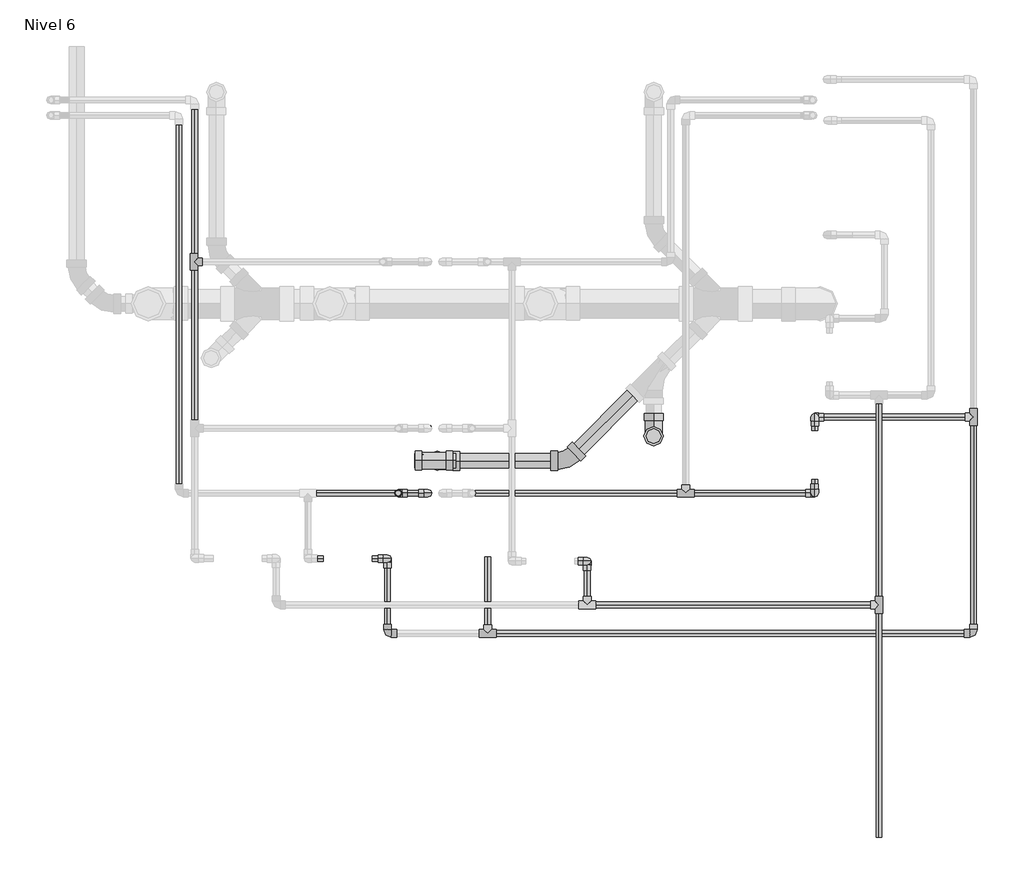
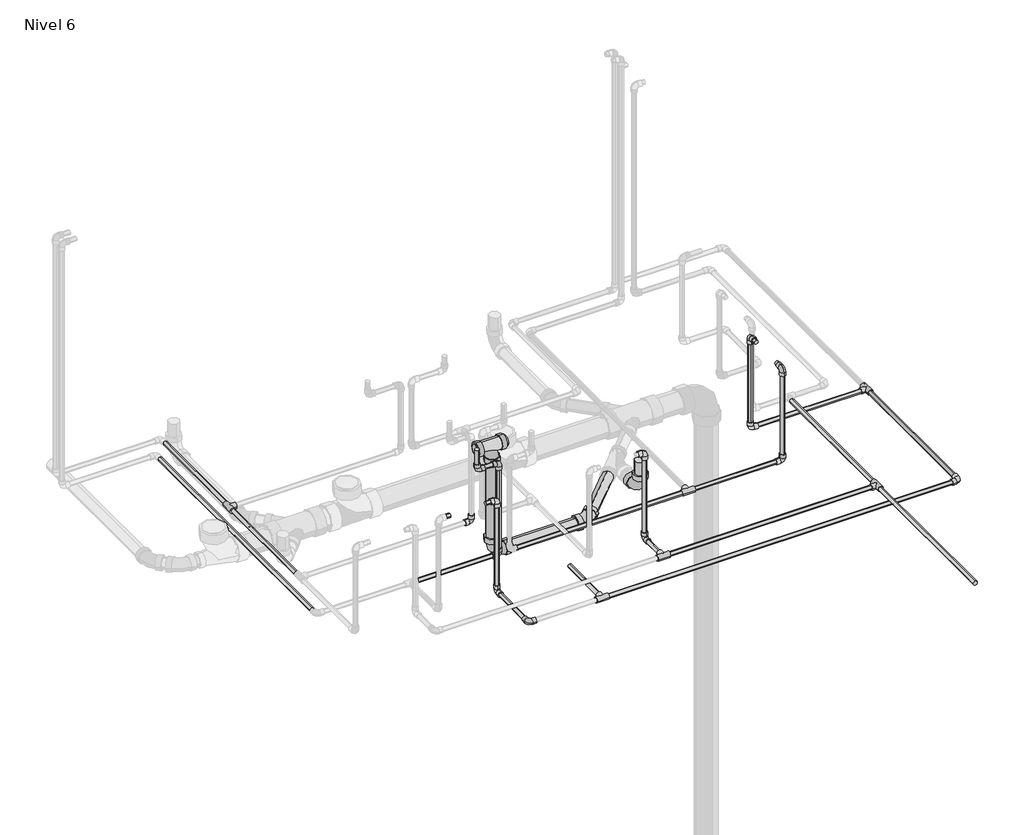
# One storey, part 9 of 11: 32 pipe segments, 24 pipe fittings.
"""IFC4 building model written with IfcOpenShell, lengths in millimetres."""

from ifc_helpers import new_model, si_unit, point, frame, frame_2d, origin, place, context, project, spatial, circle_curve, trimmed, segment, composite_curve, outline, extrude, transform, mapped, element, save
from components import pipe_fitting_ab418b84, pipe_fitting_6ef1482d, m_codo_pvc_serie_40_9ad74631, m_codo_pvc_serie_40_ba05d404, m_codo_pvc_serie_40_dwv1_5c0ec739, m_codo_pvc_serie_40_dwv1_6f1a2495

model = new_model("IFC4")

# Units and contexts
model_context = context("Model", 3, world=origin())
ifc_project = project(units=[si_unit("LENGTHUNIT", "METRE", prefix="MILLI")], contexts=[model_context])

# Site, building, storey
site = spatial("IfcSite", under=ifc_project)
building = spatial("IfcBuilding", under=site)
storey = spatial("IfcBuildingStorey", under=building, Name="Nivel 6", Elevation=13400.0)

# Pipe fittings
placement = place(None, origin())
pipe_fitting_shape = pipe_fitting_ab418b84(model_context)
element("IfcPipeFitting", 1, ObjectType="M_Te - PVC - Serie 40 : Estándar", at=placement, inside=storey, context=model_context, shape_type="MappedRepresentation", body=[
    mapped(pipe_fitting_shape, transform((6075.1825677, 15303.2696137, 13350.0), x_axis=(0.0, -1.0, 0.0), y_axis=(1.0, 0.0, 0.0), z_axis=(0.0, 0.0, 1.0))),
])
element("IfcPipeFitting", 2, ObjectType="M_Te - PVC - Serie 40 : Estándar", at=placement, inside=storey, context=model_context, shape_type="MappedRepresentation", body=[
    mapped(pipe_fitting_shape, transform((6420.642724, 15989.8852168, 13320.0), x_axis=(0.0, -1.0, 0.0), y_axis=(1.0, 0.0, 0.0), z_axis=(0.0, 0.0, 1.0))),
])
element("IfcPipeFitting", 3, ObjectType="M_Te - PVC - Serie 40 : Estándar", at=placement, inside=storey, context=model_context, shape_type="MappedRepresentation", body=[
    mapped(pipe_fitting_shape, transform((5010.1825677, 15303.2696137, 13350.0), x_axis=(-1.0, 0.0, 0.0), y_axis=(0.0, -1.0, 0.0), z_axis=(0.0, 0.0, 1.0))),
])
element("IfcPipeFitting", 4, ObjectType="M_Te - PVC - Serie 40 : Estándar", at=placement, inside=storey, context=model_context, shape_type="MappedRepresentation", body=[
    mapped(pipe_fitting_shape, transform((3574.7224115, 16556.8784649, 13350.0), x_axis=(0.0, -1.0, 0.0), y_axis=(-1.0, 0.0, 0.0), z_axis=(0.0, 0.0, -1.0))),
])
element("IfcPipeFitting", 5, ObjectType="M_Te - PVC - Serie 40 : Estándar", at=placement, inside=storey, context=model_context, shape_type="MappedRepresentation", body=[
    mapped(pipe_fitting_shape, transform((4646.7043271, 15199.4250606, 13320.0), x_axis=(1.0, 0.0, 0.0), y_axis=(0.0, -1.0, 0.0), z_axis=(0.0, 0.0, -1.0))),
])
element("IfcPipeFitting", 6, ObjectType="M_Te - PVC - Serie 40 : Estándar", at=placement, inside=storey, context=model_context, shape_type="MappedRepresentation", body=[
    mapped(pipe_fitting_shape, transform((5369.7236971, 15711.6215833, 13320.0), x_axis=(1.0, 0.0, 0.0), y_axis=(0.0, -1.0, 0.0), z_axis=(0.0, 0.0, -1.0))),
])
pipe_fitting_2_shape = pipe_fitting_6ef1482d(model_context)
element("IfcPipeFitting", 7, ObjectType="M_Sanitario con te de reducción - PVC - Serie 40 - DWV : Estándar", at=placement, inside=storey, context=model_context, shape_type="MappedRepresentation", body=[
    mapped(pipe_fitting_2_shape, transform((4462.4531324, 15830.0, 13810.6716548), x_axis=(1.0, 0.0, 0.0), y_axis=(0.0, 0.0, 1.0), z_axis=(0.0, -1.0, 0.0))),
])
m_codo_pvc_serie_40_shape = m_codo_pvc_serie_40_9ad74631(model_context)
element("IfcPipeFitting", 8, ObjectType="M_Codo - PVC - Serie 40 : Estándar", at=placement, inside=storey, context=model_context, shape_type="MappedRepresentation", body=[
    mapped(m_codo_pvc_serie_40_shape, transform((5840.642724, 15989.8852168, 13320.0), x_axis=(-1.0, 0.0, 0.0), y_axis=(0.0, 0.0, 1.0), z_axis=(0.0, 1.0, 0.0))),
])
element("IfcPipeFitting", 9, ObjectType="M_Codo - PVC - Serie 40 : Estándar", at=placement, inside=storey, context=model_context, shape_type="MappedRepresentation", body=[
    mapped(m_codo_pvc_serie_40_shape, transform((5010.1825677, 15463.2696137, 13350.0), x_axis=(0.0, 1.0, 0.0), y_axis=(0.0, 0.0, 1.0), z_axis=(1.0, 0.0, 0.0))),
])
element("IfcPipeFitting", 10, ObjectType="M_Codo - PVC - Serie 40 : Estándar", at=placement, inside=storey, context=model_context, shape_type="MappedRepresentation", body=[
    mapped(m_codo_pvc_serie_40_shape, transform((5010.1825677, 15463.2696137, 13800.0), x_axis=(0.0, 0.0, 1.0), y_axis=(-1.0, 0.0, 0.0), z_axis=(0.0, -1.0, 0.0))),
])
element("IfcPipeFitting", 11, ObjectType="M_Codo - PVC - Serie 40 : Estándar", at=placement, inside=storey, context=model_context, shape_type="MappedRepresentation", body=[
    mapped(m_codo_pvc_serie_40_shape, transform((5840.642724, 15989.8852168, 13800.0), x_axis=(0.0, 0.0, 1.0), y_axis=(0.0, -1.0, 0.0), z_axis=(1.0, 0.0, 0.0))),
])
element("IfcPipeFitting", 12, ObjectType="M_Codo - PVC - Serie 40 : Estándar", at=placement, inside=storey, context=model_context, shape_type="MappedRepresentation", body=[
    mapped(m_codo_pvc_serie_40_shape, transform((5840.642724, 15711.6215833, 13800.0), x_axis=(0.0, -1.0, 0.0), y_axis=(0.0, 0.0, -1.0), z_axis=(1.0, 0.0, 0.0))),
])
element("IfcPipeFitting", 13, ObjectType="M_Codo - PVC - Serie 40 : Estándar", at=placement, inside=storey, context=model_context, shape_type="MappedRepresentation", body=[
    mapped(m_codo_pvc_serie_40_shape, transform((5840.642724, 15711.6215833, 13320.0), x_axis=(0.0, 0.0, -1.0), y_axis=(-1.0, 0.0, 0.0), z_axis=(0.0, 1.0, 0.0))),
])
element("IfcPipeFitting", 14, ObjectType="M_Codo - PVC - Serie 40 : Estándar", at=placement, inside=storey, context=model_context, shape_type="MappedRepresentation", body=[
    mapped(m_codo_pvc_serie_40_shape, transform((6420.642724, 15199.4250606, 13320.0), x_axis=(1.0, 0.0, 0.0), y_axis=(0.0, 1.0, 0.0), z_axis=(0.0, 0.0, 1.0))),
])
element("IfcPipeFitting", 15, ObjectType="M_Codo - PVC - Serie 40 : Estándar", at=placement, inside=storey, context=model_context, shape_type="MappedRepresentation", body=[
    mapped(m_codo_pvc_serie_40_shape, transform((4320.052369, 15711.6215833, 13800.0), x_axis=(0.0, 0.0, -1.0), y_axis=(1.0, 0.0, 0.0), z_axis=(0.0, -1.0, 0.0))),
])
element("IfcPipeFitting", 16, ObjectType="M_Codo - PVC - Serie 40 : Estándar", at=placement, inside=storey, context=model_context, shape_type="MappedRepresentation", body=[
    mapped(m_codo_pvc_serie_40_shape, transform((4428.177369, 15711.6215833, 13800.0), x_axis=(1.0, 0.0, 0.0), y_axis=(0.0, 0.0, -1.0), z_axis=(0.0, 1.0, 0.0))),
])
element("IfcPipeFitting", 17, ObjectType="M_Codo - PVC - Serie 40 : Estándar", at=placement, inside=storey, context=model_context, shape_type="MappedRepresentation", body=[
    mapped(m_codo_pvc_serie_40_shape, transform((4280.642724, 15199.4250606, 13320.0), x_axis=(0.0, -1.0, 0.0), y_axis=(1.0, 0.0, 0.0), z_axis=(0.0, 0.0, 1.0))),
])
element("IfcPipeFitting", 18, ObjectType="M_Codo - PVC - Serie 40 : Estándar", at=placement, inside=storey, context=model_context, shape_type="MappedRepresentation", body=[
    mapped(m_codo_pvc_serie_40_shape, transform((4280.642724, 15472.7717665, 13320.0), x_axis=(0.0, 1.0, 0.0), y_axis=(0.0, 0.0, 1.0), z_axis=(1.0, 0.0, 0.0))),
])
element("IfcPipeFitting", 19, ObjectType="M_Codo - PVC - Serie 40 : Estándar", at=placement, inside=storey, context=model_context, shape_type="MappedRepresentation", body=[
    mapped(m_codo_pvc_serie_40_shape, transform((4280.642724, 15472.7717665, 13800.0), x_axis=(0.0, 0.0, 1.0), y_axis=(-1.0, 0.0, 0.0), z_axis=(0.0, -1.0, 0.0))),
])
element("IfcPipeFitting", 20, ObjectType="M_Codo - PVC - Serie 40 : Estándar", at=placement, inside=storey, context=model_context, shape_type="MappedRepresentation", body=[
    mapped(m_codo_pvc_serie_40_shape, transform((4428.177369, 15948.3784167, 13350.0), x_axis=(0.0, 0.0, -1.0), y_axis=(-1.0, 0.0, 0.0), z_axis=(0.0, 1.0, 0.0))),
])
m_codo_pvc_serie_40_2_shape = m_codo_pvc_serie_40_ba05d404(model_context)
element("IfcPipeFitting", 21, ObjectType="M_Codo - PVC - Serie 40 : Estándar", at=placement, inside=storey, context=model_context, shape_type="MappedRepresentation", body=[
    mapped(m_codo_pvc_serie_40_2_shape, transform((4428.177369, 15711.6215833, 13320.0), x_axis=(0.0, 0.0, -1.0), y_axis=(1.0, 0.0, 0.0), z_axis=(0.0, -1.0, 0.0))),
])
m_codo_pvc_serie_40_dwv1_shape = m_codo_pvc_serie_40_dwv1_5c0ec739(model_context)
element("IfcPipeFitting", 22, ObjectType="M_Codo - PVC - Serie 40 - DWV1 : Estándar 2", at=placement, inside=storey, context=model_context, shape_type="MappedRepresentation", body=[
    mapped(m_codo_pvc_serie_40_dwv1_shape, transform((4462.4531324, 15830.0, 13250.0), x_axis=(0.0, 0.0, -1.0), y_axis=(1.0, 0.0, 0.0), z_axis=(0.0, -1.0, 0.0))),
])
element("IfcPipeFitting", 23, ObjectType="M_Codo - PVC - Serie 40 - DWV1 : Estándar 2", at=placement, inside=storey, context=model_context, shape_type="MappedRepresentation", body=[
    mapped(m_codo_pvc_serie_40_dwv1_shape, transform((5252.4531324, 15920.0, 13250.0), x_axis=(0.0, -1.0, 0.0), y_axis=(0.0, 0.0, 1.0), z_axis=(-1.0, 0.0, 0.0))),
])
m_codo_pvc_serie_40_dwv1_2_shape = m_codo_pvc_serie_40_dwv1_6f1a2495(model_context)
element("IfcPipeFitting", 24, ObjectType="M_Codo - PVC - Serie 40 - DWV1 : Estándar 2", at=placement, inside=storey, context=model_context, shape_type="MappedRepresentation", body=[
    mapped(m_codo_pvc_serie_40_dwv1_2_shape, transform((4937.0659653, 15830.0, 13250.0), x_axis=(1.0, 0.0, 0.0), y_axis=(0.0, 1.0, 0.0), z_axis=(0.0, 0.0, 1.0))),
])

# Pipe segments
element("IfcPipeSegment", 25, ObjectType="Tuberia PVC Agua Fria", at=placement, inside=storey, context=model_context, shape_type="SweptSolid", body=[
    extrude(outline(composite_curve([segment(trimmed(circle_curve(frame_2d((15303.2696137, 13350.0)), 10.31875), [point((15313.5883637, 13350.0))], [point((15303.2696137, 13339.68125))], False, "CARTESIAN"), True, "CONTINUOUS"), segment(trimmed(circle_curve(frame_2d((15303.2696137, 13350.0)), 10.31875), [point((15303.2696137, 13339.68125))], [point((15292.9508637, 13350.0))], False, "CARTESIAN"), True, "CONTINUOUS"), segment(trimmed(circle_curve(frame_2d((15303.2696137, 13350.0)), 10.31875), [point((15292.9508637, 13350.0))], [point((15303.2696137, 13360.31875))], False, "CARTESIAN"), True, "CONTINUOUS"), segment(trimmed(circle_curve(frame_2d((15303.2696137, 13350.0)), 10.31875), [point((15303.2696137, 13360.31875))], [point((15313.5883637, 13350.0))], False, "CARTESIAN"), True, "CONTINUOUS")], self_intersect=False)), frame((5040.642724, 0.0, 0.0), z_axis=(1.0, 0.0, 0.0), x_axis=(0.0, 1.0, 0.0)), (0.0, 0.0, 1.0), 1004.0796875),
])
element("IfcPipeSegment", 26, ObjectType="Tuberia PVC Agua Fria", at=placement, inside=storey, context=model_context, shape_type="SweptSolid", body=[
    extrude(outline(composite_curve([segment(trimmed(circle_curve(frame_2d((13350.0, 6075.1825677)), 10.31875), [point((13350.0, 6085.5013177))], [point((13360.31875, 6075.1825677))], False, "CARTESIAN"), True, "CONTINUOUS"), segment(trimmed(circle_curve(frame_2d((13350.0, 6075.1825677)), 10.31875), [point((13360.31875, 6075.1825677))], [point((13350.0, 6064.8638177))], False, "CARTESIAN"), True, "CONTINUOUS"), segment(trimmed(circle_curve(frame_2d((13350.0, 6075.1825677)), 10.31875), [point((13350.0, 6064.8638177))], [point((13339.68125, 6075.1825677))], False, "CARTESIAN"), True, "CONTINUOUS"), segment(trimmed(circle_curve(frame_2d((13350.0, 6075.1825677)), 10.31875), [point((13339.68125, 6075.1825677))], [point((13350.0, 6085.5013177))], False, "CARTESIAN"), True, "CONTINUOUS")], self_intersect=False)), frame((0.0, 15333.72977, 0.0), z_axis=(0.0, 1.0, 0.0), x_axis=(0.0, 0.0, 1.0)), (0.0, 0.0, 1.0), 705.6952906),
])
element("IfcPipeSegment", 27, ObjectType="Tuberia PVC Agua Fria", at=placement, inside=storey, context=model_context, shape_type="SweptSolid", body=[
    extrude(outline(composite_curve([segment(trimmed(circle_curve(frame_2d((13350.0, 6075.1825677)), 10.31875), [point((13350.0, 6085.5013177))], [point((13360.31875, 6075.1825677))], False, "CARTESIAN"), True, "CONTINUOUS"), segment(trimmed(circle_curve(frame_2d((13350.0, 6075.1825677)), 10.31875), [point((13360.31875, 6075.1825677))], [point((13350.0, 6064.8638177))], False, "CARTESIAN"), True, "CONTINUOUS"), segment(trimmed(circle_curve(frame_2d((13350.0, 6075.1825677)), 10.31875), [point((13350.0, 6064.8638177))], [point((13339.68125, 6075.1825677))], False, "CARTESIAN"), True, "CONTINUOUS"), segment(trimmed(circle_curve(frame_2d((13350.0, 6075.1825677)), 10.31875), [point((13339.68125, 6075.1825677))], [point((13350.0, 6085.5013177))], False, "CARTESIAN"), True, "CONTINUOUS")], self_intersect=False)), frame((0.0, 14454.8852168, 0.0), z_axis=(0.0, 1.0, 0.0), x_axis=(0.0, 0.0, 1.0)), (0.0, 0.0, 1.0), 817.9242406),
])
element("IfcPipeSegment", 28, ObjectType="Tuberia PVC Agua Fria", at=placement, inside=storey, context=model_context, shape_type="SweptSolid", body=[
    extrude(outline(composite_curve([segment(trimmed(circle_curve(frame_2d((13350.0, 5010.1825677)), 10.31875), [point((13350.0, 5020.5013177))], [point((13360.31875, 5010.1825677))], False, "CARTESIAN"), True, "CONTINUOUS"), segment(trimmed(circle_curve(frame_2d((13350.0, 5010.1825677)), 10.31875), [point((13360.31875, 5010.1825677))], [point((13350.0, 4999.8638177))], False, "CARTESIAN"), True, "CONTINUOUS"), segment(trimmed(circle_curve(frame_2d((13350.0, 5010.1825677)), 10.31875), [point((13350.0, 4999.8638177))], [point((13339.68125, 5010.1825677))], False, "CARTESIAN"), True, "CONTINUOUS"), segment(trimmed(circle_curve(frame_2d((13350.0, 5010.1825677)), 10.31875), [point((13339.68125, 5010.1825677))], [point((13350.0, 5020.5013177))], False, "CARTESIAN"), True, "CONTINUOUS")], self_intersect=False)), frame((0.0, 15333.72977, 0.0), z_axis=(0.0, 1.0, 0.0), x_axis=(0.0, 0.0, 1.0)), (0.0, 0.0, 1.0), 96.1388438),
])
element("IfcPipeSegment", 29, ObjectType="Tuberia PVC Agua Fria", at=placement, inside=storey, context=model_context, shape_type="SweptSolid", body=[
    extrude(outline(composite_curve([segment(trimmed(circle_curve(frame_2d((5010.1825677, 15463.2696137)), 10.31875), [point((4999.8638177, 15463.2696137))], [point((5010.1825677, 15473.5883637))], False, "CARTESIAN"), True, "CONTINUOUS"), segment(trimmed(circle_curve(frame_2d((5010.1825677, 15463.2696137)), 10.31875), [point((5010.1825677, 15473.5883637))], [point((5020.5013177, 15463.2696137))], False, "CARTESIAN"), True, "CONTINUOUS"), segment(trimmed(circle_curve(frame_2d((5010.1825677, 15463.2696137)), 10.31875), [point((5020.5013177, 15463.2696137))], [point((5010.1825677, 15452.9508637))], False, "CARTESIAN"), True, "CONTINUOUS"), segment(trimmed(circle_curve(frame_2d((5010.1825677, 15463.2696137)), 10.31875), [point((5010.1825677, 15452.9508637))], [point((4999.8638177, 15463.2696137))], False, "CARTESIAN"), True, "CONTINUOUS")], self_intersect=False)), frame((0.0, 0.0, 13383.401), z_axis=(0.0, 0.0, 1.0), x_axis=(1.0, 0.0, 0.0)), (0.0, 0.0, 1.0), 383.198),
])
element("IfcPipeSegment", 30, ObjectType="Tuberia PVC Agua Fria", at=placement, inside=storey, context=model_context, shape_type="SweptSolid", body=[
    extrude(outline(composite_curve([segment(trimmed(circle_curve(frame_2d((13350.0, 3577.2224115)), 10.31875), [point((13350.0, 3587.5411615))], [point((13360.31875, 3577.2224115))], False, "CARTESIAN"), True, "CONTINUOUS"), segment(trimmed(circle_curve(frame_2d((13350.0, 3577.2224115)), 10.31875), [point((13360.31875, 3577.2224115))], [point((13350.0, 3566.9036615))], False, "CARTESIAN"), True, "CONTINUOUS"), segment(trimmed(circle_curve(frame_2d((13350.0, 3577.2224115)), 10.31875), [point((13350.0, 3566.9036615))], [point((13339.68125, 3577.2224115))], False, "CARTESIAN"), True, "CONTINUOUS"), segment(trimmed(circle_curve(frame_2d((13350.0, 3577.2224115)), 10.31875), [point((13339.68125, 3577.2224115))], [point((13350.0, 3587.5411615))], False, "CARTESIAN"), True, "CONTINUOUS")], self_intersect=False)), frame((0.0, 16587.3386211, 0.0), z_axis=(0.0, 1.0, 0.0), x_axis=(0.0, 0.0, 1.0)), (0.0, 0.0, 1.0), 526.599),
])
element("IfcPipeSegment", 31, ObjectType="Tuberia PVC Agua Fria", at=placement, inside=storey, context=model_context, shape_type="SweptSolid", body=[
    extrude(outline(composite_curve([segment(trimmed(circle_curve(frame_2d((13350.0, 3577.2224115)), 10.31875), [point((13350.0, 3587.5411615))], [point((13360.31875, 3577.2224115))], False, "CARTESIAN"), True, "CONTINUOUS"), segment(trimmed(circle_curve(frame_2d((13350.0, 3577.2224115)), 10.31875), [point((13360.31875, 3577.2224115))], [point((13350.0, 3566.9036615))], False, "CARTESIAN"), True, "CONTINUOUS"), segment(trimmed(circle_curve(frame_2d((13350.0, 3577.2224115)), 10.31875), [point((13350.0, 3566.9036615))], [point((13339.68125, 3577.2224115))], False, "CARTESIAN"), True, "CONTINUOUS"), segment(trimmed(circle_curve(frame_2d((13350.0, 3577.2224115)), 10.31875), [point((13339.68125, 3577.2224115))], [point((13350.0, 3587.5411615))], False, "CARTESIAN"), True, "CONTINUOUS")], self_intersect=False)), frame((0.0, 15978.8385729, 0.0), z_axis=(0.0, 1.0, 0.0), x_axis=(0.0, 0.0, 1.0)), (0.0, 0.0, 1.0), 547.5797357),
])
element("IfcPipeSegment", 32, ObjectType="Tuberia PVC Agua Caliente", at=placement, inside=storey, context=model_context, shape_type="SweptSolid", body=[
    extrude(outline(composite_curve([segment(trimmed(circle_curve(frame_2d((15989.8852168, 13320.0)), 10.31875), [point((16000.2039668, 13320.0))], [point((15989.8852168, 13309.68125))], False, "CARTESIAN"), True, "CONTINUOUS"), segment(trimmed(circle_curve(frame_2d((15989.8852168, 13320.0)), 10.31875), [point((15989.8852168, 13309.68125))], [point((15979.5664668, 13320.0))], False, "CARTESIAN"), True, "CONTINUOUS"), segment(trimmed(circle_curve(frame_2d((15989.8852168, 13320.0)), 10.31875), [point((15979.5664668, 13320.0))], [point((15989.8852168, 13330.31875))], False, "CARTESIAN"), True, "CONTINUOUS"), segment(trimmed(circle_curve(frame_2d((15989.8852168, 13320.0)), 10.31875), [point((15989.8852168, 13330.31875))], [point((16000.2039668, 13320.0))], False, "CARTESIAN"), True, "CONTINUOUS")], self_intersect=False)), frame((5874.043724, 0.0, 0.0), z_axis=(1.0, 0.0, 0.0), x_axis=(0.0, 1.0, 0.0)), (0.0, 0.0, 1.0), 516.1388438),
])
element("IfcPipeSegment", 33, ObjectType="Tuberia PVC Agua Caliente", at=placement, inside=storey, context=model_context, shape_type="SweptSolid", body=[
    extrude(outline(composite_curve([segment(trimmed(circle_curve(frame_2d((13800.0, 5840.642724)), 10.31875), [point((13800.0, 5830.323974))], [point((13789.68125, 5840.642724))], False, "CARTESIAN"), True, "CONTINUOUS"), segment(trimmed(circle_curve(frame_2d((13800.0, 5840.642724)), 10.31875), [point((13789.68125, 5840.642724))], [point((13800.0, 5850.961474))], False, "CARTESIAN"), True, "CONTINUOUS"), segment(trimmed(circle_curve(frame_2d((13800.0, 5840.642724)), 10.31875), [point((13800.0, 5850.961474))], [point((13810.31875, 5840.642724))], False, "CARTESIAN"), True, "CONTINUOUS"), segment(trimmed(circle_curve(frame_2d((13800.0, 5840.642724)), 10.31875), [point((13810.31875, 5840.642724))], [point((13800.0, 5830.323974))], False, "CARTESIAN"), True, "CONTINUOUS")], self_intersect=False)), frame((0.0, 15745.0225833, 0.0), z_axis=(0.0, 1.0, 0.0), x_axis=(0.0, 0.0, 1.0)), (0.0, 0.0, 1.0), 16.7308168),
])
element("IfcPipeSegment", 34, ObjectType="Tuberia PVC Agua Caliente", at=placement, inside=storey, context=model_context, shape_type="SweptSolid", body=[
    extrude(outline(composite_curve([segment(trimmed(circle_curve(frame_2d((5840.642724, 15989.8852168)), 10.31875), [point((5830.323974, 15989.8852168))], [point((5840.642724, 16000.2039668))], False, "CARTESIAN"), True, "CONTINUOUS"), segment(trimmed(circle_curve(frame_2d((5840.642724, 15989.8852168)), 10.31875), [point((5840.642724, 16000.2039668))], [point((5850.961474, 15989.8852168))], False, "CARTESIAN"), True, "CONTINUOUS"), segment(trimmed(circle_curve(frame_2d((5840.642724, 15989.8852168)), 10.31875), [point((5850.961474, 15989.8852168))], [point((5840.642724, 15979.5664668))], False, "CARTESIAN"), True, "CONTINUOUS"), segment(trimmed(circle_curve(frame_2d((5840.642724, 15989.8852168)), 10.31875), [point((5840.642724, 15979.5664668))], [point((5830.323974, 15989.8852168))], False, "CARTESIAN"), True, "CONTINUOUS")], self_intersect=False)), frame((0.0, 0.0, 13353.401), z_axis=(0.0, 0.0, 1.0), x_axis=(1.0, 0.0, 0.0)), (0.0, 0.0, 1.0), 413.198),
])
element("IfcPipeSegment", 35, ObjectType="Tuberia PVC Agua Caliente", at=placement, inside=storey, context=model_context, shape_type="SweptSolid", body=[
    extrude(outline(composite_curve([segment(trimmed(circle_curve(frame_2d((5840.642724, 15711.6215833)), 10.31875), [point((5850.961474, 15711.6215833))], [point((5840.642724, 15701.3028333))], False, "CARTESIAN"), True, "CONTINUOUS"), segment(trimmed(circle_curve(frame_2d((5840.642724, 15711.6215833)), 10.31875), [point((5840.642724, 15701.3028333))], [point((5830.323974, 15711.6215833))], False, "CARTESIAN"), True, "CONTINUOUS"), segment(trimmed(circle_curve(frame_2d((5840.642724, 15711.6215833)), 10.31875), [point((5830.323974, 15711.6215833))], [point((5840.642724, 15721.9403333))], False, "CARTESIAN"), True, "CONTINUOUS"), segment(trimmed(circle_curve(frame_2d((5840.642724, 15711.6215833)), 10.31875), [point((5840.642724, 15721.9403333))], [point((5850.961474, 15711.6215833))], False, "CARTESIAN"), True, "CONTINUOUS")], self_intersect=False)), frame((0.0, 0.0, 13353.401), z_axis=(0.0, 0.0, 1.0), x_axis=(1.0, 0.0, 0.0)), (0.0, 0.0, 1.0), 413.198),
])
element("IfcPipeSegment", 36, ObjectType="Tuberia PVC Agua Caliente", at=placement, inside=storey, context=model_context, shape_type="SweptSolid", body=[
    extrude(outline(composite_curve([segment(trimmed(circle_curve(frame_2d((13800.0, 5840.642724)), 10.31875), [point((13800.0, 5830.323974))], [point((13789.68125, 5840.642724))], False, "CARTESIAN"), True, "CONTINUOUS"), segment(trimmed(circle_curve(frame_2d((13800.0, 5840.642724)), 10.31875), [point((13789.68125, 5840.642724))], [point((13800.0, 5850.961474))], False, "CARTESIAN"), True, "CONTINUOUS"), segment(trimmed(circle_curve(frame_2d((13800.0, 5840.642724)), 10.31875), [point((13800.0, 5850.961474))], [point((13810.31875, 5840.642724))], False, "CARTESIAN"), True, "CONTINUOUS"), segment(trimmed(circle_curve(frame_2d((13800.0, 5840.642724)), 10.31875), [point((13810.31875, 5840.642724))], [point((13800.0, 5830.323974))], False, "CARTESIAN"), True, "CONTINUOUS")], self_intersect=False)), frame((0.0, 15939.7534001, 0.0), z_axis=(0.0, 1.0, 0.0), x_axis=(0.0, 0.0, 1.0)), (0.0, 0.0, 1.0), 16.7308168),
])
element("IfcPipeSegment", 37, ObjectType="Tuberia PVC Agua Caliente", at=placement, inside=storey, context=model_context, shape_type="SweptSolid", body=[
    extrude(outline(composite_curve([segment(trimmed(circle_curve(frame_2d((13320.0, 6420.642724)), 10.31875), [point((13320.0, 6410.323974))], [point((13309.68125, 6420.642724))], False, "CARTESIAN"), True, "CONTINUOUS"), segment(trimmed(circle_curve(frame_2d((13320.0, 6420.642724)), 10.31875), [point((13309.68125, 6420.642724))], [point((13320.0, 6430.961474))], False, "CARTESIAN"), True, "CONTINUOUS"), segment(trimmed(circle_curve(frame_2d((13320.0, 6420.642724)), 10.31875), [point((13320.0, 6430.961474))], [point((13330.31875, 6420.642724))], False, "CARTESIAN"), True, "CONTINUOUS"), segment(trimmed(circle_curve(frame_2d((13320.0, 6420.642724)), 10.31875), [point((13330.31875, 6420.642724))], [point((13320.0, 6410.323974))], False, "CARTESIAN"), True, "CONTINUOUS")], self_intersect=False)), frame((0.0, 15232.8260606, 0.0), z_axis=(0.0, 1.0, 0.0), x_axis=(0.0, 0.0, 1.0)), (0.0, 0.0, 1.0), 726.599),
])
element("IfcPipeSegment", 38, ObjectType="Tuberia PVC Agua Caliente", at=placement, inside=storey, context=model_context, shape_type="SweptSolid", body=[
    extrude(outline(composite_curve([segment(trimmed(circle_curve(frame_2d((15711.6215833, 13800.0)), 10.31875), [point((15701.3028333, 13800.0))], [point((15711.6215833, 13810.31875))], False, "CARTESIAN"), True, "CONTINUOUS"), segment(trimmed(circle_curve(frame_2d((15711.6215833, 13800.0)), 10.31875), [point((15711.6215833, 13810.31875))], [point((15721.9403333, 13800.0))], False, "CARTESIAN"), True, "CONTINUOUS"), segment(trimmed(circle_curve(frame_2d((15711.6215833, 13800.0)), 10.31875), [point((15721.9403333, 13800.0))], [point((15711.6215833, 13789.68125))], False, "CARTESIAN"), True, "CONTINUOUS"), segment(trimmed(circle_curve(frame_2d((15711.6215833, 13800.0)), 10.31875), [point((15711.6215833, 13789.68125))], [point((15701.3028333, 13800.0))], False, "CARTESIAN"), True, "CONTINUOUS")], self_intersect=False)), frame((4353.453369, 0.0, 0.0), z_axis=(1.0, 0.0, 0.0), x_axis=(0.0, 1.0, 0.0)), (0.0, 0.0, 1.0), 41.323),
])
element("IfcPipeSegment", 39, ObjectType="Tuberia PVC Agua Caliente", at=placement, inside=storey, context=model_context, shape_type="SweptSolid", body=[
    extrude(outline(composite_curve([segment(trimmed(circle_curve(frame_2d((4320.052369, 15711.6215833)), 10.31875), [point((4330.371119, 15711.6215833))], [point((4320.052369, 15701.3028333))], False, "CARTESIAN"), True, "CONTINUOUS"), segment(trimmed(circle_curve(frame_2d((4320.052369, 15711.6215833)), 10.31875), [point((4320.052369, 15701.3028333))], [point((4309.733619, 15711.6215833))], False, "CARTESIAN"), True, "CONTINUOUS"), segment(trimmed(circle_curve(frame_2d((4320.052369, 15711.6215833)), 10.31875), [point((4309.733619, 15711.6215833))], [point((4320.052369, 15721.9403333))], False, "CARTESIAN"), True, "CONTINUOUS"), segment(trimmed(circle_curve(frame_2d((4320.052369, 15711.6215833)), 10.31875), [point((4320.052369, 15721.9403333))], [point((4330.371119, 15711.6215833))], False, "CARTESIAN"), True, "CONTINUOUS")], self_intersect=False)), frame((0.0, 0.0, 13833.401), z_axis=(0.0, 0.0, 1.0), x_axis=(1.0, 0.0, 0.0)), (0.0, 0.0, 1.0), 74.0983614),
])
element("IfcPipeSegment", 40, ObjectType="Tuberia PVC Agua Caliente", at=placement, inside=storey, context=model_context, shape_type="SweptSolid", body=[
    extrude(outline(composite_curve([segment(trimmed(circle_curve(frame_2d((4428.177369, 15711.6215833)), 10.31875), [point((4438.496119, 15711.6215833))], [point((4428.177369, 15701.3028333))], False, "CARTESIAN"), True, "CONTINUOUS"), segment(trimmed(circle_curve(frame_2d((4428.177369, 15711.6215833)), 10.31875), [point((4428.177369, 15701.3028333))], [point((4417.858619, 15711.6215833))], False, "CARTESIAN"), True, "CONTINUOUS"), segment(trimmed(circle_curve(frame_2d((4428.177369, 15711.6215833)), 10.31875), [point((4417.858619, 15711.6215833))], [point((4428.177369, 15721.9403333))], False, "CARTESIAN"), True, "CONTINUOUS"), segment(trimmed(circle_curve(frame_2d((4428.177369, 15711.6215833)), 10.31875), [point((4428.177369, 15721.9403333))], [point((4438.496119, 15711.6215833))], False, "CARTESIAN"), True, "CONTINUOUS")], self_intersect=False)), frame((0.0, 0.0, 13353.401), z_axis=(0.0, 0.0, 1.0), x_axis=(1.0, 0.0, 0.0)), (0.0, 0.0, 1.0), 413.198),
])
element("IfcPipeSegment", 41, ObjectType="Tuberia PVC Agua Caliente", at=placement, inside=storey, context=model_context, shape_type="SweptSolid", body=[
    extrude(outline(composite_curve([segment(trimmed(circle_curve(frame_2d((15711.6215833, 13320.0)), 10.31875), [point((15721.9403333, 13320.0))], [point((15711.6215833, 13309.68125))], False, "CARTESIAN"), True, "CONTINUOUS"), segment(trimmed(circle_curve(frame_2d((15711.6215833, 13320.0)), 10.31875), [point((15711.6215833, 13309.68125))], [point((15701.3028333, 13320.0))], False, "CARTESIAN"), True, "CONTINUOUS"), segment(trimmed(circle_curve(frame_2d((15711.6215833, 13320.0)), 10.31875), [point((15701.3028333, 13320.0))], [point((15711.6215833, 13330.31875))], False, "CARTESIAN"), True, "CONTINUOUS"), segment(trimmed(circle_curve(frame_2d((15711.6215833, 13320.0)), 10.31875), [point((15711.6215833, 13330.31875))], [point((15721.9403333, 13320.0))], False, "CARTESIAN"), True, "CONTINUOUS")], self_intersect=False)), frame((4021.1028802, 0.0, 0.0), z_axis=(1.0, 0.0, 0.0), x_axis=(0.0, 1.0, 0.0)), (0.0, 0.0, 1.0), 373.6734888),
])
element("IfcPipeSegment", 42, ObjectType="Tuberia PVC Agua Caliente", at=placement, inside=storey, context=model_context, shape_type="SweptSolid", body=[
    extrude(outline(composite_curve([segment(trimmed(circle_curve(frame_2d((13320.0, 4280.642724)), 10.31875), [point((13320.0, 4290.961474))], [point((13330.31875, 4280.642724))], False, "CARTESIAN"), True, "CONTINUOUS"), segment(trimmed(circle_curve(frame_2d((13320.0, 4280.642724)), 10.31875), [point((13330.31875, 4280.642724))], [point((13320.0, 4270.323974))], False, "CARTESIAN"), True, "CONTINUOUS"), segment(trimmed(circle_curve(frame_2d((13320.0, 4280.642724)), 10.31875), [point((13320.0, 4270.323974))], [point((13309.68125, 4280.642724))], False, "CARTESIAN"), True, "CONTINUOUS"), segment(trimmed(circle_curve(frame_2d((13320.0, 4280.642724)), 10.31875), [point((13309.68125, 4280.642724))], [point((13320.0, 4290.961474))], False, "CARTESIAN"), True, "CONTINUOUS")], self_intersect=False)), frame((0.0, 15232.8260606, 0.0), z_axis=(0.0, 1.0, 0.0), x_axis=(0.0, 0.0, 1.0)), (0.0, 0.0, 1.0), 206.5447059),
])
element("IfcPipeSegment", 43, ObjectType="Tuberia PVC Agua Caliente", at=placement, inside=storey, context=model_context, shape_type="SweptSolid", body=[
    extrude(outline(composite_curve([segment(trimmed(circle_curve(frame_2d((15472.7717665, 13800.0)), 10.31875), [point((15483.0905165, 13800.0))], [point((15472.7717665, 13789.68125))], False, "CARTESIAN"), True, "CONTINUOUS"), segment(trimmed(circle_curve(frame_2d((15472.7717665, 13800.0)), 10.31875), [point((15472.7717665, 13789.68125))], [point((15462.4530165, 13800.0))], False, "CARTESIAN"), True, "CONTINUOUS"), segment(trimmed(circle_curve(frame_2d((15472.7717665, 13800.0)), 10.31875), [point((15462.4530165, 13800.0))], [point((15472.7717665, 13810.31875))], False, "CARTESIAN"), True, "CONTINUOUS"), segment(trimmed(circle_curve(frame_2d((15472.7717665, 13800.0)), 10.31875), [point((15472.7717665, 13810.31875))], [point((15483.0905165, 13800.0))], False, "CARTESIAN"), True, "CONTINUOUS")], self_intersect=False)), frame((4024.043724, 0.0, 0.0), z_axis=(1.0, 0.0, 0.0), x_axis=(0.0, 1.0, 0.0)), (0.0, 0.0, 1.0), 22.599),
])
element("IfcPipeSegment", 44, ObjectType="Tuberia PVC Agua Caliente", at=placement, inside=storey, context=model_context, shape_type="SweptSolid", body=[
    extrude(outline(composite_curve([segment(trimmed(circle_curve(frame_2d((4280.642724, 15472.7717665)), 10.31875), [point((4270.323974, 15472.7717665))], [point((4280.642724, 15483.0905165))], False, "CARTESIAN"), True, "CONTINUOUS"), segment(trimmed(circle_curve(frame_2d((4280.642724, 15472.7717665)), 10.31875), [point((4280.642724, 15483.0905165))], [point((4290.961474, 15472.7717665))], False, "CARTESIAN"), True, "CONTINUOUS"), segment(trimmed(circle_curve(frame_2d((4280.642724, 15472.7717665)), 10.31875), [point((4290.961474, 15472.7717665))], [point((4280.642724, 15462.4530165))], False, "CARTESIAN"), True, "CONTINUOUS"), segment(trimmed(circle_curve(frame_2d((4280.642724, 15472.7717665)), 10.31875), [point((4280.642724, 15462.4530165))], [point((4270.323974, 15472.7717665))], False, "CARTESIAN"), True, "CONTINUOUS")], self_intersect=False)), frame((0.0, 0.0, 13353.401), z_axis=(0.0, 0.0, 1.0), x_axis=(1.0, 0.0, 0.0)), (0.0, 0.0, 1.0), 413.198),
])
element("IfcPipeSegment", 45, ObjectType="Tuberia PVC Agua Caliente", at=placement, inside=storey, context=model_context, shape_type="SweptSolid", body=[
    extrude(outline(composite_curve([segment(trimmed(circle_curve(frame_2d((15472.7717665, 13800.0)), 10.31875), [point((15483.0905165, 13800.0))], [point((15472.7717665, 13789.68125))], False, "CARTESIAN"), True, "CONTINUOUS"), segment(trimmed(circle_curve(frame_2d((15472.7717665, 13800.0)), 10.31875), [point((15472.7717665, 13789.68125))], [point((15462.4530165, 13800.0))], False, "CARTESIAN"), True, "CONTINUOUS"), segment(trimmed(circle_curve(frame_2d((15472.7717665, 13800.0)), 10.31875), [point((15462.4530165, 13800.0))], [point((15472.7717665, 13810.31875))], False, "CARTESIAN"), True, "CONTINUOUS"), segment(trimmed(circle_curve(frame_2d((15472.7717665, 13800.0)), 10.31875), [point((15472.7717665, 13810.31875))], [point((15483.0905165, 13800.0))], False, "CARTESIAN"), True, "CONTINUOUS")], self_intersect=False)), frame((4224.642724, 0.0, 0.0), z_axis=(1.0, 0.0, 0.0), x_axis=(0.0, 1.0, 0.0)), (0.0, 0.0, 1.0), 22.599),
])
element("IfcPipeSegment", 46, ObjectType="Tuberia PVC Agua Caliente", at=placement, inside=storey, context=model_context, shape_type="SweptSolid", body=[
    extrude(outline(composite_curve([segment(trimmed(circle_curve(frame_2d((13320.0, 3520.1825677)), 10.31875), [point((13320.0, 3530.5013177))], [point((13330.31875, 3520.1825677))], False, "CARTESIAN"), True, "CONTINUOUS"), segment(trimmed(circle_curve(frame_2d((13320.0, 3520.1825677)), 10.31875), [point((13330.31875, 3520.1825677))], [point((13320.0, 3509.8638177))], False, "CARTESIAN"), True, "CONTINUOUS"), segment(trimmed(circle_curve(frame_2d((13320.0, 3520.1825677)), 10.31875), [point((13320.0, 3509.8638177))], [point((13309.68125, 3520.1825677))], False, "CARTESIAN"), True, "CONTINUOUS"), segment(trimmed(circle_curve(frame_2d((13320.0, 3520.1825677)), 10.31875), [point((13309.68125, 3520.1825677))], [point((13320.0, 3530.5013177))], False, "CARTESIAN"), True, "CONTINUOUS")], self_intersect=False)), frame((0.0, 15745.0225833, 0.0), z_axis=(0.0, 1.0, 0.0), x_axis=(0.0, 0.0, 1.0)), (0.0, 0.0, 1.0), 1313.198),
])
element("IfcPipeSegment", 47, ObjectType="Tuberia PVC Agua Caliente", at=placement, inside=storey, context=model_context, shape_type="SweptSolid", body=[
    extrude(outline(composite_curve([segment(trimmed(circle_curve(frame_2d((13320.0, 4646.7043271)), 10.31875), [point((13320.0, 4657.0230771))], [point((13330.31875, 4646.7043271))], False, "CARTESIAN"), True, "CONTINUOUS"), segment(trimmed(circle_curve(frame_2d((13320.0, 4646.7043271)), 10.31875), [point((13330.31875, 4646.7043271))], [point((13320.0, 4636.3855771))], False, "CARTESIAN"), True, "CONTINUOUS"), segment(trimmed(circle_curve(frame_2d((13320.0, 4646.7043271)), 10.31875), [point((13320.0, 4636.3855771))], [point((13309.68125, 4646.7043271))], False, "CARTESIAN"), True, "CONTINUOUS"), segment(trimmed(circle_curve(frame_2d((13320.0, 4646.7043271)), 10.31875), [point((13309.68125, 4646.7043271))], [point((13320.0, 4657.0230771))], False, "CARTESIAN"), True, "CONTINUOUS")], self_intersect=False)), frame((0.0, 15229.8852168, 0.0), z_axis=(0.0, 1.0, 0.0), x_axis=(0.0, 0.0, 1.0)), (0.0, 0.0, 1.0), 249.5398437),
])
element("IfcPipeSegment", 48, ObjectType="Tuberia PVC Agua Caliente", at=placement, inside=storey, context=model_context, shape_type="SweptSolid", body=[
    extrude(outline(composite_curve([segment(trimmed(circle_curve(frame_2d((15199.4250606, 13320.0)), 10.31875), [point((15209.7438106, 13320.0))], [point((15199.4250606, 13309.68125))], False, "CARTESIAN"), True, "CONTINUOUS"), segment(trimmed(circle_curve(frame_2d((15199.4250606, 13320.0)), 10.31875), [point((15199.4250606, 13309.68125))], [point((15189.1063106, 13320.0))], False, "CARTESIAN"), True, "CONTINUOUS"), segment(trimmed(circle_curve(frame_2d((15199.4250606, 13320.0)), 10.31875), [point((15189.1063106, 13320.0))], [point((15199.4250606, 13330.31875))], False, "CARTESIAN"), True, "CONTINUOUS"), segment(trimmed(circle_curve(frame_2d((15199.4250606, 13320.0)), 10.31875), [point((15199.4250606, 13330.31875))], [point((15209.7438106, 13320.0))], False, "CARTESIAN"), True, "CONTINUOUS")], self_intersect=False)), frame((4677.1644834, 0.0, 0.0), z_axis=(1.0, 0.0, 0.0), x_axis=(0.0, 1.0, 0.0)), (0.0, 0.0, 1.0), 1710.0772406),
])
element("IfcPipeSegment", 49, ObjectType="Tuberia PVC Agua Caliente", at=placement, inside=storey, context=model_context, shape_type="SweptSolid", body=[
    extrude(outline(composite_curve([segment(trimmed(circle_curve(frame_2d((15711.6215833, 13320.0)), 10.31875), [point((15721.9403333, 13320.0))], [point((15711.6215833, 13309.68125))], False, "CARTESIAN"), True, "CONTINUOUS"), segment(trimmed(circle_curve(frame_2d((15711.6215833, 13320.0)), 10.31875), [point((15711.6215833, 13309.68125))], [point((15701.3028333, 13320.0))], False, "CARTESIAN"), True, "CONTINUOUS"), segment(trimmed(circle_curve(frame_2d((15711.6215833, 13320.0)), 10.31875), [point((15701.3028333, 13320.0))], [point((15711.6215833, 13330.31875))], False, "CARTESIAN"), True, "CONTINUOUS"), segment(trimmed(circle_curve(frame_2d((15711.6215833, 13320.0)), 10.31875), [point((15711.6215833, 13330.31875))], [point((15721.9403333, 13320.0))], False, "CARTESIAN"), True, "CONTINUOUS")], self_intersect=False)), frame((4515.1298958, 0.0, 0.0), z_axis=(1.0, 0.0, 0.0), x_axis=(0.0, 1.0, 0.0)), (0.0, 0.0, 1.0), 824.133645),
])
element("IfcPipeSegment", 50, ObjectType="Tuberia PVC Agua Caliente", at=placement, inside=storey, context=model_context, shape_type="SweptSolid", body=[
    extrude(outline(composite_curve([segment(trimmed(circle_curve(frame_2d((15711.6215833, 13320.0)), 10.31875), [point((15721.9403333, 13320.0))], [point((15711.6215833, 13309.68125))], False, "CARTESIAN"), True, "CONTINUOUS"), segment(trimmed(circle_curve(frame_2d((15711.6215833, 13320.0)), 10.31875), [point((15711.6215833, 13309.68125))], [point((15701.3028333, 13320.0))], False, "CARTESIAN"), True, "CONTINUOUS"), segment(trimmed(circle_curve(frame_2d((15711.6215833, 13320.0)), 10.31875), [point((15701.3028333, 13320.0))], [point((15711.6215833, 13330.31875))], False, "CARTESIAN"), True, "CONTINUOUS"), segment(trimmed(circle_curve(frame_2d((15711.6215833, 13320.0)), 10.31875), [point((15711.6215833, 13330.31875))], [point((15721.9403333, 13320.0))], False, "CARTESIAN"), True, "CONTINUOUS")], self_intersect=False)), frame((5400.1838533, 0.0, 0.0), z_axis=(1.0, 0.0, 0.0), x_axis=(0.0, 1.0, 0.0)), (0.0, 0.0, 1.0), 407.0578707),
])
element("IfcPipeSegment", 51, ObjectType="Tuberia PVC Sanitario", at=placement, inside=storey, context=model_context, shape_type="SweptSolid", body=[
    extrude(outline(composite_curve([segment(trimmed(circle_curve(frame_2d((15830.0, 13810.6716548)), 26.9875), [point((15803.0125, 13810.6716548))], [point((15830.0, 13837.6591548))], False, "CARTESIAN"), True, "CONTINUOUS"), segment(trimmed(circle_curve(frame_2d((15830.0, 13810.6716548)), 26.9875), [point((15830.0, 13837.6591548))], [point((15856.9875, 13810.6716548))], False, "CARTESIAN"), True, "CONTINUOUS"), segment(trimmed(circle_curve(frame_2d((15830.0, 13810.6716548)), 26.9875), [point((15856.9875, 13810.6716548))], [point((15830.0, 13783.6841548))], False, "CARTESIAN"), True, "CONTINUOUS"), segment(trimmed(circle_curve(frame_2d((15830.0, 13810.6716548)), 26.9875), [point((15830.0, 13783.6841548))], [point((15803.0125, 13810.6716548))], False, "CARTESIAN"), True, "CONTINUOUS")], self_intersect=False)), frame((4379.9531324, 0.0, 0.0), z_axis=(1.0, 0.0, 0.0), x_axis=(0.0, 1.0, 0.0)), (0.0, 0.0, 1.0), 2.5655332),
])
element("IfcPipeSegment", 52, ObjectType="Tuberia PVC Sanitario", at=placement, inside=storey, context=model_context, shape_type="SweptSolid", body=[
    extrude(outline(composite_curve([segment(trimmed(circle_curve(frame_2d((4462.4531324, 15830.0)), 26.9875), [point((4489.4406324, 15830.0))], [point((4462.4531324, 15803.0125))], False, "CARTESIAN"), True, "CONTINUOUS"), segment(trimmed(circle_curve(frame_2d((4462.4531324, 15830.0)), 26.9875), [point((4462.4531324, 15803.0125))], [point((4435.4656324, 15830.0))], False, "CARTESIAN"), True, "CONTINUOUS"), segment(trimmed(circle_curve(frame_2d((4462.4531324, 15830.0)), 26.9875), [point((4435.4656324, 15830.0))], [point((4462.4531324, 15856.9875))], False, "CARTESIAN"), True, "CONTINUOUS"), segment(trimmed(circle_curve(frame_2d((4462.4531324, 15830.0)), 26.9875), [point((4462.4531324, 15856.9875))], [point((4489.4406324, 15830.0))], False, "CARTESIAN"), True, "CONTINUOUS")], self_intersect=False)), frame((0.0, 0.0, 13332.5420625), z_axis=(0.0, 0.0, 1.0), x_axis=(1.0, 0.0, 0.0)), (0.0, 0.0, 1.0), 396.3376235),
])
element("IfcPipeSegment", 53, ObjectType="Tuberia PVC Sanitario", at=placement, inside=storey, context=model_context, shape_type="SweptSolid", body=[
    extrude(outline(composite_curve([segment(trimmed(circle_curve(frame_2d((15830.0, 13810.6716548)), 26.9875), [point((15803.0125, 13810.6716548))], [point((15830.0, 13837.6591548))], False, "CARTESIAN"), True, "CONTINUOUS"), segment(trimmed(circle_curve(frame_2d((15830.0, 13810.6716548)), 26.9875), [point((15830.0, 13837.6591548))], [point((15856.9875, 13810.6716548))], False, "CARTESIAN"), True, "CONTINUOUS"), segment(trimmed(circle_curve(frame_2d((15830.0, 13810.6716548)), 26.9875), [point((15856.9875, 13810.6716548))], [point((15830.0, 13783.6841548))], False, "CARTESIAN"), True, "CONTINUOUS"), segment(trimmed(circle_curve(frame_2d((15830.0, 13810.6716548)), 26.9875), [point((15830.0, 13783.6841548))], [point((15803.0125, 13810.6716548))], False, "CARTESIAN"), True, "CONTINUOUS")], self_intersect=False)), frame((4519.6461219, 0.0, 0.0), z_axis=(1.0, 0.0, 0.0), x_axis=(0.0, 1.0, 0.0)), (0.0, 0.0, 1.0), 10.3070105),
])
element("IfcPipeSegment", 54, ObjectType="Tuberia PVC Sanitario", at=placement, inside=storey, context=model_context, shape_type="SweptSolid", body=[
    extrude(outline(composite_curve([segment(trimmed(circle_curve(frame_2d((0.0, -26.9875)), 26.9875), [point((-26.9875, -26.9875))], [point((0.0, 0.0))], False, "CARTESIAN"), True, "CONTINUOUS"), segment(trimmed(circle_curve(frame_2d((0.0, -26.9875)), 26.9875), [point((0.0, 0.0))], [point((26.9875, -26.9875))], False, "CARTESIAN"), True, "CONTINUOUS"), segment(trimmed(circle_curve(frame_2d((0.0, -26.9875)), 26.9875), [point((26.9875, -26.9875))], [point((0.0, -53.975))], False, "CARTESIAN"), True, "CONTINUOUS"), segment(trimmed(circle_curve(frame_2d((0.0, -26.9875)), 26.9875), [point((0.0, -53.975))], [point((-26.9875, -26.9875))], False, "CARTESIAN"), True, "CONTINUOUS")], self_intersect=False)), frame((4979.7951465, 15872.7291812, 13223.0125), z_axis=(0.7071067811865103, 0.7071067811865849, 0.0), x_axis=(0.7071067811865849, -0.7071067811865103, 0.0)), (0.0, 0.0, 1.0), 276.7590149),
])
element("IfcPipeSegment", 55, ObjectType="Tuberia PVC Sanitario", at=placement, inside=storey, context=model_context, shape_type="SweptSolid", body=[
    extrude(outline(composite_curve([segment(trimmed(circle_curve(frame_2d((15830.0, 13250.0)), 26.9875), [point((15856.9875, 13250.0))], [point((15830.0, 13223.0125))], False, "CARTESIAN"), True, "CONTINUOUS"), segment(trimmed(circle_curve(frame_2d((15830.0, 13250.0)), 26.9875), [point((15830.0, 13223.0125))], [point((15803.0125, 13250.0))], False, "CARTESIAN"), True, "CONTINUOUS"), segment(trimmed(circle_curve(frame_2d((15830.0, 13250.0)), 26.9875), [point((15803.0125, 13250.0))], [point((15830.0, 13276.9875))], False, "CARTESIAN"), True, "CONTINUOUS"), segment(trimmed(circle_curve(frame_2d((15830.0, 13250.0)), 26.9875), [point((15830.0, 13276.9875))], [point((15856.9875, 13250.0))], False, "CARTESIAN"), True, "CONTINUOUS")], self_intersect=False)), frame((4544.9951949, 0.0, 0.0), z_axis=(1.0, 0.0, 0.0), x_axis=(0.0, 1.0, 0.0)), (0.0, 0.0, 1.0), 331.6425829),
])
element("IfcPipeSegment", 56, ObjectType="Tuberia PVC Sanitario", at=placement, inside=storey, context=model_context, shape_type="SweptSolid", body=[
    extrude(outline(composite_curve([segment(trimmed(circle_curve(frame_2d((5252.4531324, 15920.0)), 26.9875), [point((5225.4656324, 15920.0))], [point((5252.4531324, 15946.9875))], False, "CARTESIAN"), True, "CONTINUOUS"), segment(trimmed(circle_curve(frame_2d((5252.4531324, 15920.0)), 26.9875), [point((5252.4531324, 15946.9875))], [point((5279.4406324, 15920.0))], False, "CARTESIAN"), True, "CONTINUOUS"), segment(trimmed(circle_curve(frame_2d((5252.4531324, 15920.0)), 26.9875), [point((5279.4406324, 15920.0))], [point((5252.4531324, 15893.0125))], False, "CARTESIAN"), True, "CONTINUOUS"), segment(trimmed(circle_curve(frame_2d((5252.4531324, 15920.0)), 26.9875), [point((5252.4531324, 15893.0125))], [point((5225.4656324, 15920.0))], False, "CARTESIAN"), True, "CONTINUOUS")], self_intersect=False)), frame((0.0, 0.0, 13332.5420625), z_axis=(0.0, 0.0, 1.0), x_axis=(1.0, 0.0, 0.0)), (0.0, 0.0, 1.0), 67.4579375),
])

save(model, "model.ifc")
